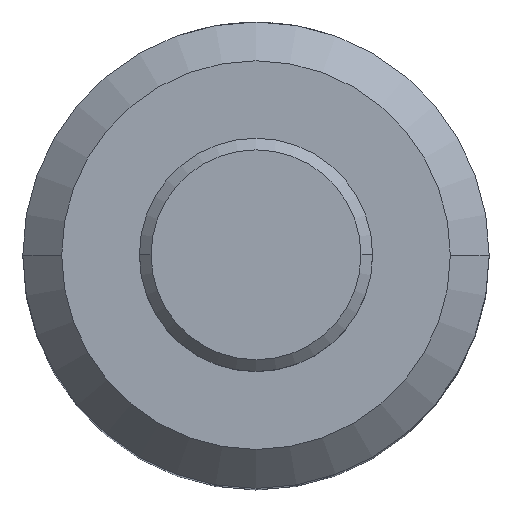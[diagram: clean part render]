
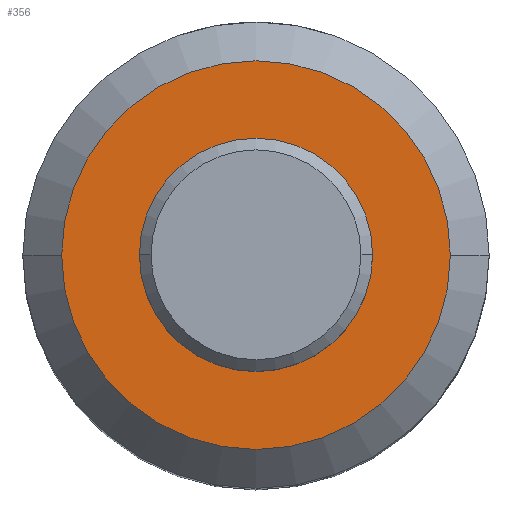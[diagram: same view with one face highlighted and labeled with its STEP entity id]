
A CAD part, top view. The second image highlights one B-rep face of the part: STEP entity #356.
In plain terms, the highlighted planar face has unit normal (0, 0, 1).
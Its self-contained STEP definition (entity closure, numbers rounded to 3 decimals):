
#9 = EDGE_LOOP ( 'NONE', ( #215, #537 ) ) ;
#35 = CARTESIAN_POINT ( 'NONE',  ( -2.25, 0., 25. ) ) ;
#54 = ORIENTED_EDGE ( 'NONE', *, *, #65, .T. ) ;
#65 = EDGE_CURVE ( 'NONE', #834, #542, #409, .T. ) ;
#116 = EDGE_LOOP ( 'NONE', ( #54, #452 ) ) ;
#152 = FACE_OUTER_BOUND ( 'NONE', #116, .T. ) ;
#215 = ORIENTED_EDGE ( 'NONE', *, *, #637, .F. ) ;
#235 = DIRECTION ( 'NONE',  ( 0., 0., 1. ) ) ;
#237 = CARTESIAN_POINT ( 'NONE',  ( 0., 0., 25. ) ) ;
#255 = VERTEX_POINT ( 'NONE', #35 ) ;
#280 = FACE_BOUND ( 'NONE', #9, .T. ) ;
#297 = CARTESIAN_POINT ( 'NONE',  ( 0., 0., 25. ) ) ;
#299 = DIRECTION ( 'NONE',  ( 1., 0., 0. ) ) ;
#302 = DIRECTION ( 'NONE',  ( 0., 0., 1. ) ) ;
#315 = CARTESIAN_POINT ( 'NONE',  ( 5., 0., 25. ) ) ;
#317 = CARTESIAN_POINT ( 'NONE',  ( 0., 0., 25. ) ) ;
#349 = CARTESIAN_POINT ( 'NONE',  ( -5., 0., 25. ) ) ;
#356 = ADVANCED_FACE ( 'NONE', ( #152, #280 ), #630, .T. ) ;
#370 = CIRCLE ( 'NONE', #516, 2.25 ) ;
#386 = DIRECTION ( 'NONE',  ( 0., 0., 1. ) ) ;
#393 = DIRECTION ( 'NONE',  ( 0., 0., 1. ) ) ;
#409 = CIRCLE ( 'NONE', #687, 5. ) ;
#414 = AXIS2_PLACEMENT_3D ( 'NONE', #790, #393, #655 ) ;
#444 = EDGE_CURVE ( 'NONE', #551, #255, #370, .T. ) ;
#452 = ORIENTED_EDGE ( 'NONE', *, *, #497, .T. ) ;
#453 = DIRECTION ( 'NONE',  ( 1., 0., 0. ) ) ;
#497 = EDGE_CURVE ( 'NONE', #542, #834, #803, .T. ) ;
#516 = AXIS2_PLACEMENT_3D ( 'NONE', #237, #702, #299 ) ;
#537 = ORIENTED_EDGE ( 'NONE', *, *, #444, .F. ) ;
#542 = VERTEX_POINT ( 'NONE', #315 ) ;
#551 = VERTEX_POINT ( 'NONE', #645 ) ;
#556 = AXIS2_PLACEMENT_3D ( 'NONE', #770, #302, #771 ) ;
#630 = PLANE ( 'NONE',  #784 ) ;
#637 = EDGE_CURVE ( 'NONE', #255, #551, #821, .T. ) ;
#645 = CARTESIAN_POINT ( 'NONE',  ( 2.25, 0., 25. ) ) ;
#655 = DIRECTION ( 'NONE',  ( 1., 0., 0. ) ) ;
#687 = AXIS2_PLACEMENT_3D ( 'NONE', #317, #386, #453 ) ;
#702 = DIRECTION ( 'NONE',  ( 0., 0., 1. ) ) ;
#768 = DIRECTION ( 'NONE',  ( 1., 0., 0. ) ) ;
#770 = CARTESIAN_POINT ( 'NONE',  ( 0., 0., 25. ) ) ;
#771 = DIRECTION ( 'NONE',  ( 1., 0., 0. ) ) ;
#784 = AXIS2_PLACEMENT_3D ( 'NONE', #297, #235, #768 ) ;
#790 = CARTESIAN_POINT ( 'NONE',  ( 0., 0., 25. ) ) ;
#803 = CIRCLE ( 'NONE', #556, 5. ) ;
#821 = CIRCLE ( 'NONE', #414, 2.25 ) ;
#834 = VERTEX_POINT ( 'NONE', #349 ) ;
